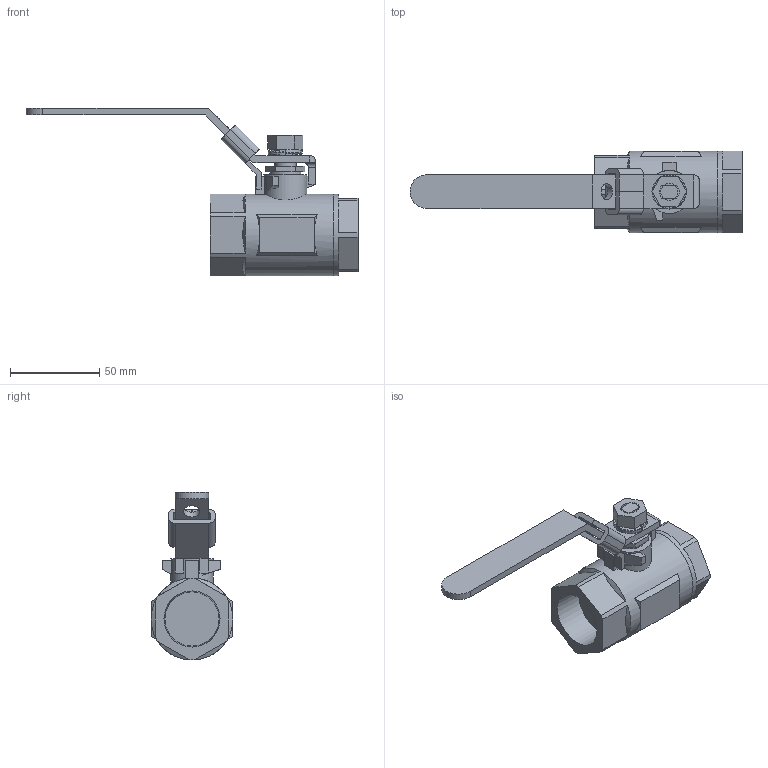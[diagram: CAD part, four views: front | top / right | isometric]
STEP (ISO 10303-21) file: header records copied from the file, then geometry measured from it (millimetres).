
FILE_DESCRIPTION((' '),'2;1');
FILE_NAME('N:\Technical Support\Private\Jomar Valve CAD\Ball Valves\CS and SS\2000N\1.0 T-CS[SS]-2000N (100-955 [100-935])FusionCopy.stp.step','2016-07-05T12:08:15',(' '),(' '),' ','ACIS',' ');
FILE_SCHEMA(('CONFIG_CONTROL_DESIGN'));
Length unit declared in the file: inch
Products named in the file (9): N:\Technical Support\Private\Jomar Valve CAD\Ball Valves\CS and SS\2000N\1.0 T-CS[SS]-2000N (100-955 [100-935])FusionCopy.stp.step; Body1; Body2; Body3; Body4; Body5; Body6; Body7; Body8
Assembly tree (8 placements, depth 2):
  N:\Technical Support\Private\Jomar Valve CAD\Ball Valves\CS and SS\2000N\1.0 T-CS[SS]-2000N (100-955 [100-935])FusionCopy.stp.step
    Body1
    Body2
    Body3
    Body4
    Body5
    Body6
    Body7
    Body8
Bounding box: 186.31 x 45.97 x 94.2 mm (x, y, z)
Volume: 134007.8 mm3; surface area: 36562.9 mm2
Topology: 8 solids, 8 shells, 179 faces, 450 edges, 293 vertices
Faces by surface type: plane 112, cylinder 27, cone 18, bspline 14, torus 8
Full cylindrical faces by diameter (mm): 9.017 x1, 9.525 x1, 11.963 x2, 17.475 x1, 24.13 x1, 45.974 x2
Entity records: 6562 total; most frequent: CARTESIAN_POINT 1050, DIRECTION 904, ORIENTED_EDGE 860, EDGE_CURVE 430, AXIS2_PLACEMENT_3D 308, VECTOR 288, LINE 288, VERTEX_POINT 285
